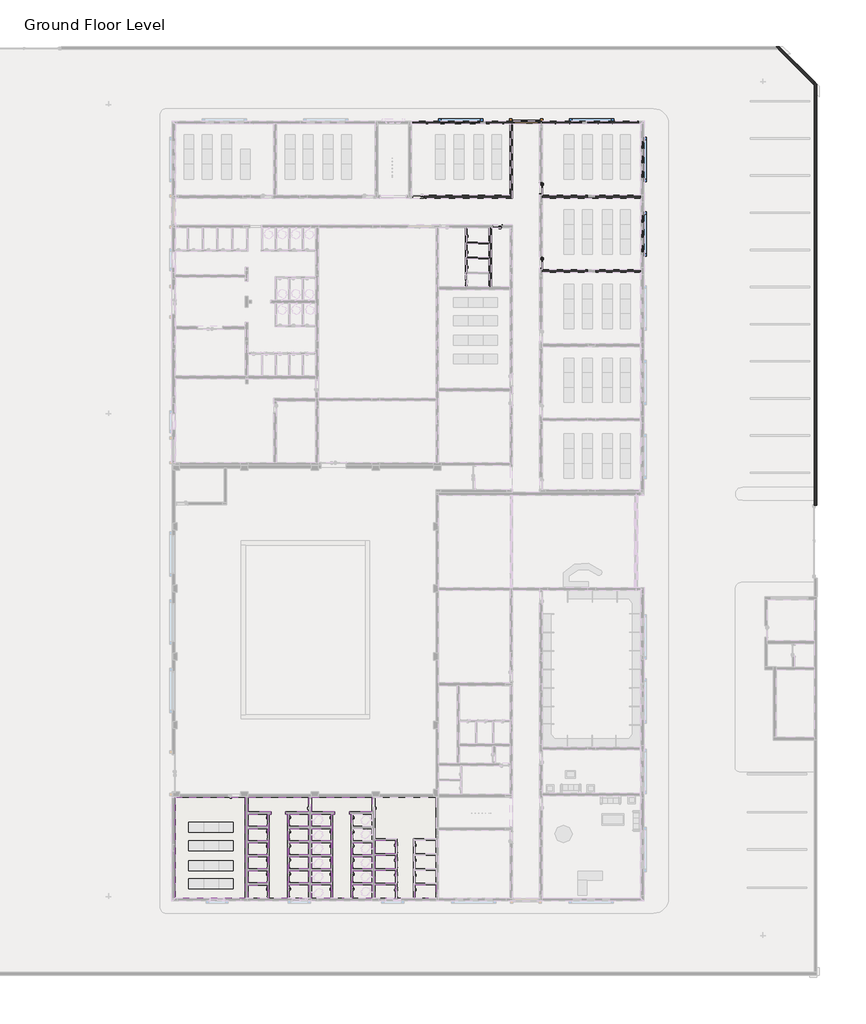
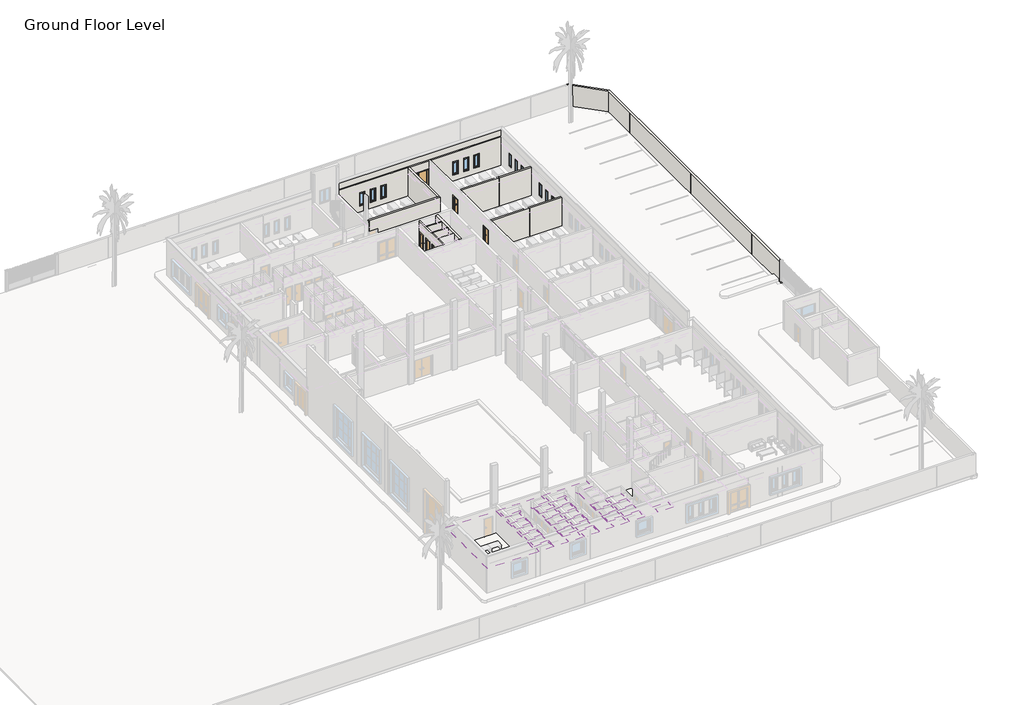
# One storey, part 10 of 23: 30 coverings, 16 windows, 11 walls, 8 doors, 2 slabs.
"""IFC4 building model written with IfcOpenShell, lengths in millimetres."""

from ifc_helpers import new_model, si_unit, frame, origin, place, context, project, spatial, polyline, outline, extrude, faceted_brep, transform, mapped, element, save
from components import door_batten_type_1_30d6fa25, ext_double_out_timber_2lite_nz_2000x_2500_b5d1efe6, int_single_flush_nz_700x_2100_f912e773, int_single_flush_nz_700x_2100_e1d28701, int_single_flush_nz_900_x_2100_021ef152, window_batten_type_1_f037d73b, window_batten_type_1_78a66526, window_batten_type_1_65f01d97, window_single_shutter_w3_b236610e

model = new_model("IFC4")

# Units and contexts
model_context = context("Model", 3, world=origin())
ifc_project = project(units=[si_unit("LENGTHUNIT", "METRE", prefix="MILLI")], contexts=[model_context])

# Site, building, storey
site = spatial("IfcSite", under=ifc_project)
building = spatial("IfcBuilding", under=site)
storey = spatial("IfcBuildingStorey", under=building, Name="Ground Floor Level", Elevation=900.0)

# Coverings
placement = place(None, origin())
element("IfcCovering", 1, ObjectType="600 x 600mm Grid", at=placement, inside=storey, context=model_context, shape_type="SweptSolid", body=[
    extrude(outline(polyline([(-16157.2327605, -32964.7846466), (-16157.2327605, -41144.7846466), (-21837.2327605, -41144.7846466), (-21837.2327605, -32964.7846466), (-16157.2327605, -32964.7846466)])), frame((0.0, 0.0, 3650.0), z_axis=(0.0, 0.0, 1.0), x_axis=(1.0, 0.0, 0.0)), (0.0, 0.0, 1.0), 52.0),
])
element("IfcCovering", 2, ObjectType="Plain", at=placement, inside=storey, context=model_context, shape_type="SweptSolid", body=[
    extrude(outline(polyline([(-8947.2347605, -34144.6926466), (-10803.9007605, -34144.6926466), (-10803.9007605, -32964.7846466), (-5890.5687605, -32964.7846466), (-5890.5687605, -34144.6926466), (-7747.2347605, -34144.6926466), (-7747.2347605, -34364.6926466), (-7587.2347605, -34364.6926466), (-7587.2347605, -41144.7846466), (-9107.2347605, -41144.7846466), (-9107.2347605, -34364.6926466), (-8947.2347605, -34364.6926466), (-8947.2347605, -34144.6926466)])), frame((0.0, 0.0, 3650.0), z_axis=(0.0, 0.0, 1.0), x_axis=(1.0, 0.0, 0.0)), (0.0, 0.0, 1.0), 57.0),
])
element("IfcCovering", 3, ObjectType="Plain", at=placement, inside=storey, context=model_context, shape_type="SweptSolid", body=[
    extrude(outline(polyline([(-14080.5667605, -34144.6926466), (-15937.2327605, -34144.6926466), (-15937.2327605, -32964.7846466), (-11023.9007605, -32964.7846466), (-11023.9007605, -34144.6926466), (-12880.5667605, -34144.6926466), (-12880.5667605, -34364.6926466), (-12720.5667605, -34364.6926466), (-12720.5667605, -41144.7846466), (-14240.5667605, -41144.7846466), (-14240.5667605, -34364.6926466), (-14080.5667605, -34364.6926466), (-14080.5667605, -34144.6926466)])), frame((0.0, 0.0, 3650.0), z_axis=(0.0, 0.0, 1.0), x_axis=(1.0, 0.0, 0.0)), (0.0, 0.0, 1.0), 57.0),
])
element("IfcCovering", 4, ObjectType="Plain", at=placement, inside=storey, context=model_context, shape_type="SweptSolid", body=[
    extrude(outline(polyline([(-14360.5667605, -35342.7835466), (-15937.2327605, -35342.7835466), (-15937.2327605, -34364.6926466), (-14360.5667605, -34364.6926466), (-14360.5667605, -35342.7835466)])), frame((0.0, 0.0, 3650.0), z_axis=(0.0, 0.0, 1.0), x_axis=(1.0, 0.0, 0.0)), (0.0, 0.0, 1.0), 57.0),
])
element("IfcCovering", 5, ObjectType="Plain", at=placement, inside=storey, context=model_context, shape_type="SweptSolid", body=[
    extrude(outline(polyline([(-14360.5667605, -36482.7833366), (-15937.2327605, -36482.7833366), (-15937.2327605, -35512.7835466), (-14360.5667605, -35512.7835466), (-14360.5667605, -36482.7833366)])), frame((0.0, 0.0, 3650.0), z_axis=(0.0, 0.0, 1.0), x_axis=(1.0, 0.0, 0.0)), (0.0, 0.0, 1.0), 57.0),
])
element("IfcCovering", 6, ObjectType="Plain", at=placement, inside=storey, context=model_context, shape_type="SweptSolid", body=[
    extrude(outline(polyline([(-14360.5667605, -37622.7833266), (-15937.2327605, -37622.7833266), (-15937.2327605, -36652.7833366), (-14360.5667605, -36652.7833366), (-14360.5667605, -37622.7833266)])), frame((0.0, 0.0, 3650.0), z_axis=(0.0, 0.0, 1.0), x_axis=(1.0, 0.0, 0.0)), (0.0, 0.0, 1.0), 57.0),
])
element("IfcCovering", 7, ObjectType="Plain", at=placement, inside=storey, context=model_context, shape_type="SweptSolid", body=[
    extrude(outline(polyline([(-14360.5667605, -38762.7929166), (-15937.2327605, -38762.7929166), (-15937.2327605, -37792.7833266), (-14360.5667605, -37792.7833266), (-14360.5667605, -38762.7929166)])), frame((0.0, 0.0, 3650.0), z_axis=(0.0, 0.0, 1.0), x_axis=(1.0, 0.0, 0.0)), (0.0, 0.0, 1.0), 57.0),
])
element("IfcCovering", 8, ObjectType="Plain", at=placement, inside=storey, context=model_context, shape_type="SweptSolid", body=[
    extrude(outline(polyline([(-14360.5667605, -39912.8025066), (-15937.2327605, -39912.8025066), (-15937.2327605, -38932.7929166), (-14360.5667605, -38932.7929166), (-14360.5667605, -39912.8025066)])), frame((0.0, 0.0, 3650.0), z_axis=(0.0, 0.0, 1.0), x_axis=(1.0, 0.0, 0.0)), (0.0, 0.0, 1.0), 57.0),
])
element("IfcCovering", 9, ObjectType="Plain", at=placement, inside=storey, context=model_context, shape_type="SweptSolid", body=[
    extrude(outline(polyline([(-15937.2327605, -41144.7846466), (-15937.2327605, -40082.8025066), (-14360.5667605, -40082.8025066), (-14360.5667605, -41144.7846466), (-15937.2327605, -41144.7846466)])), frame((0.0, 0.0, 3650.0), z_axis=(0.0, 0.0, 1.0), x_axis=(1.0, 0.0, 0.0)), (0.0, 0.0, 1.0), 57.0),
])
element("IfcCovering", 10, ObjectType="Plain", at=placement, inside=storey, context=model_context, shape_type="SweptSolid", body=[
    extrude(outline(polyline([(-12600.5667605, -40072.8025066), (-11023.9007605, -40072.8025066), (-11023.9007605, -41144.7846466), (-12600.5667605, -41144.7846466), (-12600.5667605, -40072.8025066)])), frame((0.0, 0.0, 3650.0), z_axis=(0.0, 0.0, 1.0), x_axis=(1.0, 0.0, 0.0)), (0.0, 0.0, 1.0), 57.0),
])
element("IfcCovering", 11, ObjectType="Plain", at=placement, inside=storey, context=model_context, shape_type="SweptSolid", body=[
    extrude(outline(polyline([(-12600.5667605, -38932.7929166), (-11023.9007605, -38932.7929166), (-11023.9007605, -39902.8025066), (-12600.5667605, -39902.8025066), (-12600.5667605, -38932.7929166)])), frame((0.0, 0.0, 3650.0), z_axis=(0.0, 0.0, 1.0), x_axis=(1.0, 0.0, 0.0)), (0.0, 0.0, 1.0), 57.0),
])
element("IfcCovering", 12, ObjectType="Plain", at=placement, inside=storey, context=model_context, shape_type="SweptSolid", body=[
    extrude(outline(polyline([(-12600.5667605, -37792.7833266), (-11023.9007605, -37792.7833266), (-11023.9007605, -38762.7929166), (-12600.5667605, -38762.7929166), (-12600.5667605, -37792.7833266)])), frame((0.0, 0.0, 3650.0), z_axis=(0.0, 0.0, 1.0), x_axis=(1.0, 0.0, 0.0)), (0.0, 0.0, 1.0), 57.0),
])
element("IfcCovering", 13, ObjectType="Plain", at=placement, inside=storey, context=model_context, shape_type="SweptSolid", body=[
    extrude(outline(polyline([(-12600.5667605, -36652.7833366), (-11023.9007605, -36652.7833366), (-11023.9007605, -37622.7833266), (-12600.5667605, -37622.7833266), (-12600.5667605, -36652.7833366)])), frame((0.0, 0.0, 3650.0), z_axis=(0.0, 0.0, 1.0), x_axis=(1.0, 0.0, 0.0)), (0.0, 0.0, 1.0), 57.0),
])
element("IfcCovering", 14, ObjectType="Plain", at=placement, inside=storey, context=model_context, shape_type="SweptSolid", body=[
    extrude(outline(polyline([(-12600.5667605, -35512.7835466), (-11023.9007605, -35512.7835466), (-11023.9007605, -36482.7833366), (-12600.5667605, -36482.7833366), (-12600.5667605, -35512.7835466)])), frame((0.0, 0.0, 3650.0), z_axis=(0.0, 0.0, 1.0), x_axis=(1.0, 0.0, 0.0)), (0.0, 0.0, 1.0), 57.0),
])
element("IfcCovering", 15, ObjectType="Plain", at=placement, inside=storey, context=model_context, shape_type="SweptSolid", body=[
    extrude(outline(polyline([(-11023.9007605, -34364.6926466), (-11023.9007605, -35342.7835466), (-12600.5667605, -35342.7835466), (-12600.5667605, -34364.6926466), (-11023.9007605, -34364.6926466)])), frame((0.0, 0.0, 3650.0), z_axis=(0.0, 0.0, 1.0), x_axis=(1.0, 0.0, 0.0)), (0.0, 0.0, 1.0), 57.0),
])
element("IfcCovering", 16, ObjectType="Plain", at=placement, inside=storey, context=model_context, shape_type="SweptSolid", body=[
    extrude(outline(polyline([(-9227.2347605, -35342.7835466), (-10803.9007605, -35342.7835466), (-10803.9007605, -34364.6926466), (-9227.2347605, -34364.6926466), (-9227.2347605, -35342.7835466)])), frame((0.0, 0.0, 3650.0), z_axis=(0.0, 0.0, 1.0), x_axis=(1.0, 0.0, 0.0)), (0.0, 0.0, 1.0), 57.0),
])
element("IfcCovering", 17, ObjectType="Plain", at=placement, inside=storey, context=model_context, shape_type="SweptSolid", body=[
    extrude(outline(polyline([(-9227.2347605, -36482.7833366), (-10803.9007605, -36482.7833366), (-10803.9007605, -35512.7835466), (-9227.2347605, -35512.7835466), (-9227.2347605, -36482.7833366)])), frame((0.0, 0.0, 3650.0), z_axis=(0.0, 0.0, 1.0), x_axis=(1.0, 0.0, 0.0)), (0.0, 0.0, 1.0), 57.0),
])
element("IfcCovering", 18, ObjectType="Plain", at=placement, inside=storey, context=model_context, shape_type="SweptSolid", body=[
    extrude(outline(polyline([(-9227.2347605, -37622.7833266), (-10803.9007605, -37622.7833266), (-10803.9007605, -36652.7833366), (-9227.2347605, -36652.7833366), (-9227.2347605, -37622.7833266)])), frame((0.0, 0.0, 3650.0), z_axis=(0.0, 0.0, 1.0), x_axis=(1.0, 0.0, 0.0)), (0.0, 0.0, 1.0), 57.0),
])
element("IfcCovering", 19, ObjectType="Plain", at=placement, inside=storey, context=model_context, shape_type="SweptSolid", body=[
    extrude(outline(polyline([(-9227.2347605, -38762.7929166), (-10803.9007605, -38762.7929166), (-10803.9007605, -37792.7833266), (-9227.2347605, -37792.7833266), (-9227.2347605, -38762.7929166)])), frame((0.0, 0.0, 3650.0), z_axis=(0.0, 0.0, 1.0), x_axis=(1.0, 0.0, 0.0)), (0.0, 0.0, 1.0), 57.0),
])
element("IfcCovering", 20, ObjectType="Plain", at=placement, inside=storey, context=model_context, shape_type="SweptSolid", body=[
    extrude(outline(polyline([(-9227.2347605, -39902.8025066), (-10803.9007605, -39902.8025066), (-10803.9007605, -38932.7929166), (-9227.2347605, -38932.7929166), (-9227.2347605, -39902.8025066)])), frame((0.0, 0.0, 3650.0), z_axis=(0.0, 0.0, 1.0), x_axis=(1.0, 0.0, 0.0)), (0.0, 0.0, 1.0), 57.0),
])
element("IfcCovering", 21, ObjectType="Plain", at=placement, inside=storey, context=model_context, shape_type="SweptSolid", body=[
    extrude(outline(polyline([(-10803.9007605, -41144.7846466), (-10803.9007605, -40072.8025066), (-9227.2347605, -40072.8025066), (-9227.2347605, -41144.7846466), (-10803.9007605, -41144.7846466)])), frame((0.0, 0.0, 3650.0), z_axis=(0.0, 0.0, 1.0), x_axis=(1.0, 0.0, 0.0)), (0.0, 0.0, 1.0), 57.0),
])
element("IfcCovering", 22, ObjectType="Plain", at=placement, inside=storey, context=model_context, shape_type="SweptSolid", body=[
    extrude(outline(polyline([(-5890.5687605, -36652.7833366), (-5890.5687605, -37622.7833266), (-7467.2347605, -37622.7833266), (-7467.2347605, -36652.7833366), (-5890.5687605, -36652.7833366)])), frame((0.0, 0.0, 3650.0), z_axis=(0.0, 0.0, 1.0), x_axis=(1.0, 0.0, 0.0)), (0.0, 0.0, 1.0), 57.0),
])
element("IfcCovering", 23, ObjectType="Plain", at=placement, inside=storey, context=model_context, shape_type="SweptSolid", body=[
    extrude(outline(polyline([(-5890.5687605, -37792.7833266), (-5890.5687605, -38762.7929166), (-7467.2347605, -38762.7929166), (-7467.2347605, -37792.7833266), (-5890.5687605, -37792.7833266)])), frame((0.0, 0.0, 3650.0), z_axis=(0.0, 0.0, 1.0), x_axis=(1.0, 0.0, 0.0)), (0.0, 0.0, 1.0), 57.0),
])
element("IfcCovering", 24, ObjectType="Plain", at=placement, inside=storey, context=model_context, shape_type="SweptSolid", body=[
    extrude(outline(polyline([(-5890.5687605, -38932.7929166), (-5890.5687605, -39902.8025066), (-7467.2347605, -39902.8025066), (-7467.2347605, -38932.7929166), (-5890.5687605, -38932.7929166)])), frame((0.0, 0.0, 3650.0), z_axis=(0.0, 0.0, 1.0), x_axis=(1.0, 0.0, 0.0)), (0.0, 0.0, 1.0), 57.0),
])
element("IfcCovering", 25, ObjectType="Plain", at=placement, inside=storey, context=model_context, shape_type="SweptSolid", body=[
    extrude(outline(polyline([(-5890.5687605, -40072.8025066), (-5890.5687605, -41144.7846466), (-7467.2347605, -41144.7846466), (-7467.2347605, -40072.8025066), (-5890.5687605, -40072.8025066)])), frame((0.0, 0.0, 3650.0), z_axis=(0.0, 0.0, 1.0), x_axis=(1.0, 0.0, 0.0)), (0.0, 0.0, 1.0), 57.0),
])
element("IfcCovering", 26, ObjectType="Plain", at=placement, inside=storey, context=model_context, shape_type="SweptSolid", body=[
    extrude(outline(polyline([(-5670.5687605, -41144.7846466), (-5670.5687605, -40064.7846466), (-3991.0371386, -40064.7846466), (-3991.0371386, -41144.7846466), (-5670.5687605, -41144.7846466)])), frame((0.0, 0.0, 3650.0), z_axis=(0.0, 0.0, 1.0), x_axis=(1.0, 0.0, 0.0)), (0.0, 0.0, 1.0), 57.0),
])
element("IfcCovering", 27, ObjectType="Plain", at=placement, inside=storey, context=model_context, shape_type="SweptSolid", body=[
    extrude(outline(polyline([(-3991.0371386, -39944.7846466), (-5670.5687605, -39944.7846466), (-5670.5687605, -38864.7846466), (-3991.0371386, -38864.7846466), (-3991.0371386, -39944.7846466)])), frame((0.0, 0.0, 3650.0), z_axis=(0.0, 0.0, 1.0), x_axis=(1.0, 0.0, 0.0)), (0.0, 0.0, 1.0), 57.0),
])
element("IfcCovering", 28, ObjectType="Plain", at=placement, inside=storey, context=model_context, shape_type="SweptSolid", body=[
    extrude(outline(polyline([(-3991.0371386, -38744.7846466), (-5670.5687605, -38744.7846466), (-5670.5687605, -37664.7846466), (-3991.0371386, -37664.7846466), (-3991.0371386, -38744.7846466)])), frame((0.0, 0.0, 3650.0), z_axis=(0.0, 0.0, 1.0), x_axis=(1.0, 0.0, 0.0)), (0.0, 0.0, 1.0), 57.0),
])
element("IfcCovering", 29, ObjectType="Plain", at=placement, inside=storey, context=model_context, shape_type="SweptSolid", body=[
    extrude(outline(polyline([(-3991.0371386, -37544.7846466), (-5670.5687605, -37544.7846466), (-5670.5687605, -36464.7846466), (-3991.0371386, -36464.7846466), (-3991.0371386, -37544.7846466)])), frame((0.0, 0.0, 3650.0), z_axis=(0.0, 0.0, 1.0), x_axis=(1.0, 0.0, 0.0)), (0.0, 0.0, 1.0), 57.0),
])
element("IfcCovering", 30, ObjectType="Plain", at=placement, inside=storey, context=model_context, shape_type="SweptSolid", body=[
    extrude(outline(polyline([(-2436.7643824, -41144.7846466), (-2436.7643824, -40064.7846466), (-757.2327605, -40064.7846466), (-757.2327605, -41144.7846466), (-2436.7643824, -41144.7846466)])), frame((0.0, 0.0, 3650.0), z_axis=(0.0, 0.0, 1.0), x_axis=(1.0, 0.0, 0.0)), (0.0, 0.0, 1.0), 57.0),
])

# Doors
door_batten_type_1_shape = door_batten_type_1_30d6fa25(model_context)
element("IfcDoor", 31, ObjectType="Door Batten : Type 1", at=placement, inside=storey, context=model_context, shape_type="MappedRepresentation", body=[
    mapped(door_batten_type_1_shape, transform((6678.9728517, 21545.2153534, 993.650134), x_axis=(-1.0, 0.0, 0.0), y_axis=(0.0, -1.0, 0.0), z_axis=(0.0, 0.0, 1.0))),
])
ext_double_out_timber_2lite_nz_2000x_2500_shape = ext_double_out_timber_2lite_nz_2000x_2500_b5d1efe6(model_context)
element("IfcDoor", 32, ObjectType="Ext Double Out-Timber-2Lite (NZ) : 2000x 2500", at=placement, inside=storey, context=model_context, shape_type="MappedRepresentation", body=[
    mapped(ext_double_out_timber_2lite_nz_2000x_2500_shape, transform((6694.7672395, 21547.9448707, 900.0), x_axis=(1.0, 0.0, 0.0), y_axis=(0.0, 1.0, 0.0), z_axis=(0.0, 0.0, 1.0))),
])
int_single_flush_nz_700x_2100_shape = int_single_flush_nz_700x_2100_f912e773(model_context)
element("IfcDoor", 33, ObjectType="Int Single-Flush (NZ) : 700x 2100", at=placement, inside=storey, context=model_context, shape_type="MappedRepresentation", body=[
    mapped(int_single_flush_nz_700x_2100_shape, transform((4156.7672395, 13145.2153534, 900.0), x_axis=(-1.0, 0.0, 0.0), y_axis=(0.0, -1.0, 0.0), z_axis=(0.0, 0.0, 1.0))),
])
int_single_flush_nz_700x_2100_2_shape = int_single_flush_nz_700x_2100_e1d28701(model_context)
element("IfcDoor", 34, ObjectType="Int Single-Flush (NZ) : 700x 2100", at=placement, inside=storey, context=model_context, shape_type="MappedRepresentation", body=[
    mapped(int_single_flush_nz_700x_2100_2_shape, transform((1702.7672395, 12641.2153534, 1000.0), x_axis=(0.0, 1.0, 0.0), y_axis=(-1.0, 0.0, 0.0), z_axis=(0.0, 0.0, 1.0))),
])
element("IfcDoor", 35, ObjectType="Int Single-Flush (NZ) : 700x 2100", at=placement, inside=storey, context=model_context, shape_type="MappedRepresentation", body=[
    mapped(int_single_flush_nz_700x_2100_2_shape, transform((1702.7672395, 11341.2153534, 1000.0), x_axis=(0.0, 1.0, 0.0), y_axis=(-1.0, 0.0, 0.0), z_axis=(0.0, 0.0, 1.0))),
])
element("IfcDoor", 36, ObjectType="Int Single-Flush (NZ) : 700x 2100", at=placement, inside=storey, context=model_context, shape_type="MappedRepresentation", body=[
    mapped(int_single_flush_nz_700x_2100_2_shape, transform((1702.7672395, 10131.2153534, 1000.0), x_axis=(0.0, 1.0, 0.0), y_axis=(-1.0, 0.0, 0.0), z_axis=(0.0, 0.0, 1.0))),
])
int_single_flush_nz_900_x_2100_shape = int_single_flush_nz_900_x_2100_021ef152(model_context)
element("IfcDoor", 37, ObjectType="Int Single-Flush (NZ) : 900 x 2100", at=placement, inside=storey, context=model_context, shape_type="MappedRepresentation", body=[
    mapped(int_single_flush_nz_900_x_2100_shape, transform((7752.7672395, 16149.2153534, 1000.0), x_axis=(0.0, -1.0, 0.0), y_axis=(1.0, 0.0, 0.0), z_axis=(0.0, 0.0, 1.0))),
])
element("IfcDoor", 38, ObjectType="Int Single-Flush (NZ) : 900 x 2100", at=placement, inside=storey, context=model_context, shape_type="MappedRepresentation", body=[
    mapped(int_single_flush_nz_900_x_2100_shape, transform((7752.7672395, 10149.2153534, 1000.0), x_axis=(0.0, -1.0, 0.0), y_axis=(1.0, 0.0, 0.0), z_axis=(0.0, 0.0, 1.0))),
])

# Slabs
element("IfcSlab", 39, ObjectType="Ceramic Tile Floor 30x30", at=placement, inside=storey, context=model_context, shape_type="Brep", body=[
    faceted_brep([(-747.2327605, -32954.7846466, 900.0), (-747.2327605, -32964.7846466, 900.0), (-747.2327605, -35454.7846466, 900.0), (-747.2327605, -36054.7846466, 900.0), (-747.2327605, -40854.7846466, 900.0), (-747.2327605, -41154.7846466, 900.0), (-5397.2327605, -41154.7846466, 900.0), (-5897.2327605, -41154.7846466, 900.0), (-10297.2327605, -41154.7846466, 900.0), (-10797.2327605, -41154.7846466, 900.0), (-15947.2327605, -41154.7846466, 900.0), (-15947.2327605, -41144.7846466, 900.0), (-15947.2327605, -32964.7846466, 900.0), (-15947.2327605, -32954.7846466, 900.0), (-10847.2327605, -32954.7846466, 900.0), (-10247.2327605, -32954.7846466, 900.0), (-5897.2327605, -32954.7846466, 900.0), (-5297.2327605, -32954.7846466, 900.0), (-947.2327605, -32954.7846466, 900.0), (-747.2327605, -32954.7846466, 1000.0), (-947.2327605, -32954.7846466, 1000.0), (-5297.2327605, -32954.7846466, 1000.0), (-5897.2327605, -32954.7846466, 1000.0), (-10247.2327605, -32954.7846466, 1000.0), (-10847.2327605, -32954.7846466, 1000.0), (-15947.2327605, -32954.7846466, 1000.0), (-15947.2327605, -32964.7846466, 1000.0), (-15947.2327605, -41144.7846466, 1000.0), (-15947.2327605, -41154.7846466, 1000.0), (-10797.2327605, -41154.7846466, 1000.0), (-10297.2327605, -41154.7846466, 1000.0), (-5897.2327605, -41154.7846466, 1000.0), (-5397.2327605, -41154.7846466, 1000.0), (-747.2327605, -41154.7846466, 1000.0), (-747.2327605, -41144.7846466, 1000.0), (-747.2327605, -40854.7846466, 1000.0), (-747.2327605, -36054.7846466, 1000.0), (-747.2327605, -35454.7846466, 1000.0), (-747.2327605, -32964.7846466, 1000.0)], [[[0, 1, 2, 3, 4, 5, 6, 7, 8, 9, 10, 11, 12, 13, 14, 15, 16, 17, 18]], [[19, 20, 21, 22, 23, 24, 25, 26, 27, 28, 29, 30, 31, 32, 33, 34, 35, 36, 37, 38]], [[5, 4, 3, 2, 1, 0, 19, 38, 37, 36, 35, 34, 33]], [[10, 9, 8, 7, 6, 5, 33, 32, 31, 30, 29, 28]], [[13, 12, 11, 10, 28, 27, 26, 25]], [[0, 18, 17, 16, 15, 14, 13, 25, 24, 23, 22, 21, 20, 19]]]),
])
element("IfcSlab", 40, ObjectType="Ceramic Tile Floor 60x60cm", at=placement, inside=storey, context=model_context, shape_type="Brep", body=[
    faceted_brep([(-16147.2327605, -32954.7846466, 900.0), (-16147.2327605, -32964.7846466, 900.0), (-16147.2327605, -41144.7846466, 900.0), (-16147.2327605, -41154.7846466, 900.0), (-16497.2327605, -41154.7846466, 900.0), (-21647.2327605, -41154.7846466, 900.0), (-21847.2327605, -41154.7846466, 900.0), (-21847.2327605, -41144.7846466, 900.0), (-21847.2327605, -37304.7846466, 900.0), (-21847.2327605, -36804.7846466, 900.0), (-21847.2327605, -32964.7846466, 900.0), (-21847.2327605, -32954.7846466, 900.0), (-21447.2327605, -32954.7846466, 900.0), (-16547.2327605, -32954.7846466, 900.0), (-16147.2327605, -32954.7846466, 1000.0), (-16547.2327605, -32954.7846466, 1000.0), (-16557.2327605, -32954.7846466, 1000.0), (-17495.2327605, -32954.7846466, 1000.0), (-21447.2327605, -32954.7846466, 1000.0), (-21837.2327605, -32954.7846466, 1000.0), (-21847.2327605, -32954.7846466, 1000.0), (-21847.2327605, -32964.7846466, 1000.0), (-21847.2327605, -36804.7846466, 1000.0), (-21847.2327605, -37304.7846466, 1000.0), (-21847.2327605, -41144.7846466, 1000.0), (-21847.2327605, -41154.7846466, 1000.0), (-21647.2327605, -41154.7846466, 1000.0), (-16497.2327605, -41154.7846466, 1000.0), (-16147.2327605, -41154.7846466, 1000.0), (-16147.2327605, -41144.7846466, 1000.0), (-16147.2327605, -32964.7846466, 1000.0)], [[[0, 1, 2, 3, 4, 5, 6, 7, 8, 9, 10, 11, 12, 13]], [[14, 15, 16, 17, 18, 19, 20, 21, 22, 23, 24, 25, 26, 27, 28, 29, 30]], [[3, 2, 1, 0, 14, 30, 29, 28]], [[6, 5, 4, 3, 28, 27, 26, 25]], [[11, 10, 9, 8, 7, 6, 25, 24, 23, 22, 21, 20]], [[0, 13, 12, 11, 20, 19, 18, 17, 16, 15, 14]]]),
])

# Walls
element("IfcWall", 41, ObjectType="Exterior - Blockwork 200mm", at=placement, inside=storey, context=model_context, shape_type="Brep", body=[
    faceted_brep([(16062.7672395, 21435.2153534, 5302.8002678), (15842.7672395, 21435.2153534, 5302.8002678), (-2737.2327605, 21435.2153534, 5302.8002678), (-2737.2327605, 21435.2153534, 4550.0), (15842.7672395, 21435.2153534, 4550.0), (16052.7672395, 21435.2153534, 4550.0), (16052.7672395, 21435.2153534, 4400.0), (15842.7672395, 21435.2153534, 4400.0), (7862.7672395, 21435.2153534, 4400.0), (7852.7672395, 21435.2153534, 4400.0), (7852.7672395, 21435.2153534, 1000.0), (7862.7672395, 21435.2153534, 1000.0), (15842.7672395, 21435.2153534, 1000.0), (15852.7672395, 21435.2153534, 1000.0), (15852.7672395, 21435.2153534, 900.0), (16062.7672395, 21435.2153534, 900.0), (10962.7672395, 21435.2153534, 1700.0), (10362.7672395, 21435.2153534, 1700.0), (10362.7672395, 21435.2153534, 3300.0), (10962.7672395, 21435.2153534, 3300.0), (12162.7672395, 21435.2153534, 1700.0), (11562.7672395, 21435.2153534, 1700.0), (11562.7672395, 21435.2153534, 3300.0), (12162.7672395, 21435.2153534, 3300.0), (13342.7672395, 21435.2153534, 1700.0), (12742.7672395, 21435.2153534, 1700.0), (12742.7672395, 21435.2153534, 3300.0), (13342.7672395, 21435.2153534, 3300.0), (7652.7672395, 21435.2153534, 4400.0), (7642.7672395, 21435.2153534, 4400.0), (5462.7672395, 21435.2153534, 4400.0), (5242.7672395, 21435.2153534, 4400.0), (-2737.2327605, 21435.2153534, 4400.0), (-2737.2327605, 21435.2153534, 1000.0), (5242.7672395, 21435.2153534, 1000.0), (5252.7672395, 21435.2153534, 1000.0), (5252.7672395, 21435.2153534, 900.0), (5452.7672395, 21435.2153534, 900.0), (5452.7672395, 21435.2153534, 1000.0), (5462.7672395, 21435.2153534, 1000.0), (5526.7672395, 21435.2153534, 1000.0), (5526.7672395, 21435.2153534, 3400.0), (7578.7672395, 21435.2153534, 3400.0), (7578.7672395, 21435.2153534, 1000.0), (7642.7672395, 21435.2153534, 1000.0), (7652.7672395, 21435.2153534, 1000.0), (342.7672395, 21435.2153534, 1700.0), (-257.2327605, 21435.2153534, 1700.0), (-257.2327605, 21435.2153534, 3300.0), (342.7672395, 21435.2153534, 3300.0), (1562.7672395, 21435.2153534, 1700.0), (962.7672395, 21435.2153534, 1700.0), (962.7672395, 21435.2153534, 3300.0), (1562.7672395, 21435.2153534, 3300.0), (2762.7672395, 21435.2153534, 1700.0), (2162.7672395, 21435.2153534, 1700.0), (2162.7672395, 21435.2153534, 3300.0), (2762.7672395, 21435.2153534, 3300.0), (-2737.2327605, 21655.2153534, 5302.8002678), (16062.7672395, 21655.2153534, 5302.8002678), (16062.7672395, 21655.2153534, 900.0), (7578.7672395, 21655.2153534, 900.0), (7578.7672395, 21655.2153534, 3400.0), (5526.7672395, 21655.2153534, 3400.0), (5526.7672395, 21655.2153534, 900.0), (-2737.2327605, 21655.2153534, 900.0), (-257.2327605, 21655.2153534, 1700.0), (342.7672395, 21655.2153534, 1700.0), (342.7672395, 21655.2153534, 3300.0), (-257.2327605, 21655.2153534, 3300.0), (962.7672395, 21655.2153534, 1700.0), (1562.7672395, 21655.2153534, 1700.0), (1562.7672395, 21655.2153534, 3300.0), (962.7672395, 21655.2153534, 3300.0), (2162.7672395, 21655.2153534, 1700.0), (2762.7672395, 21655.2153534, 1700.0), (2762.7672395, 21655.2153534, 3300.0), (2162.7672395, 21655.2153534, 3300.0), (10362.7672395, 21655.2153534, 1700.0), (10962.7672395, 21655.2153534, 1700.0), (10962.7672395, 21655.2153534, 3300.0), (10362.7672395, 21655.2153534, 3300.0), (11562.7672395, 21655.2153534, 1700.0), (12162.7672395, 21655.2153534, 1700.0), (12162.7672395, 21655.2153534, 3300.0), (11562.7672395, 21655.2153534, 3300.0), (12742.7672395, 21655.2153534, 1700.0), (13342.7672395, 21655.2153534, 1700.0), (13342.7672395, 21655.2153534, 3300.0), (12742.7672395, 21655.2153534, 3300.0), (2802.7672395, 21445.2153534, 4400.0), (3302.7672395, 21445.2153534, 4400.0), (3302.7672395, 21445.2153534, 1000.0), (2802.7672395, 21445.2153534, 1000.0), (2802.7672395, 21645.2153534, 900.0), (2802.7672395, 21645.2153534, 4400.0), (2802.7672395, 21445.2153534, 900.0), (3302.7672395, 21645.2153534, 900.0), (3302.7672395, 21645.2153534, 4400.0), (7652.7672395, 21645.2153534, 4400.0), (7652.7672395, 21645.2153534, 900.0), (7852.7672395, 21645.2153534, 900.0), (7852.7672395, 21645.2153534, 4400.0), (11052.7672395, 21645.2153534, 4400.0), (11052.7672395, 21645.2153534, 900.0), (11552.7672395, 21645.2153534, 900.0), (11552.7672395, 21645.2153534, 4400.0), (15652.7672395, 21645.2153534, 4400.0), (15652.7672395, 21645.2153534, 900.0), (16052.7672395, 21645.2153534, 900.0), (16052.7672395, 21645.2153534, 4400.0), (16052.7672395, 21645.2153534, 4550.0), (-2737.2327605, 21645.2153534, 4550.0), (-2737.2327605, 21645.2153534, 4400.0), (3302.7672395, 21445.2153534, 900.0), (7852.7672395, 21445.2153534, 900.0), (7852.7672395, 21445.2153534, 1000.0), (7652.7672395, 21445.2153534, 1000.0), (7652.7672395, 21445.2153534, 900.0), (11552.7672395, 21445.2153534, 900.0), (11552.7672395, 21445.2153534, 1000.0), (11552.7672395, 21445.2153534, 4400.0), (11052.7672395, 21445.2153534, 4400.0), (11052.7672395, 21445.2153534, 1000.0), (11052.7672395, 21445.2153534, 900.0), (16052.7672395, 21445.2153534, 900.0), (16052.7672395, 21445.2153534, 4400.0), (15852.7672395, 21445.2153534, 900.0), (15852.7672395, 21445.2153534, 1000.0), (15652.7672395, 21445.2153534, 1000.0), (15652.7672395, 21445.2153534, 4400.0), (15652.7672395, 21445.2153534, 900.0), (7578.7672395, 21445.2153534, 1000.0), (5452.7672395, 21445.2153534, 1000.0), (5526.7672395, 21445.2153534, 1000.0), (5452.7672395, 21445.2153534, 900.0), (7578.7672395, 21445.2153534, 900.0), (5526.7672395, 21445.2153534, 900.0), (-2737.2327605, 21445.2153534, 1000.0), (5252.7672395, 21445.2153534, 1000.0), (5252.7672395, 21445.2153534, 900.0), (-2737.2327605, 21445.2153534, 900.0)], [[[0, 1, 2, 3, 4, 5, 6, 7, 8, 9, 10, 11, 12, 13, 14, 15], [16, 17, 18, 19], [20, 21, 22, 23], [24, 25, 26, 27]], [[28, 29, 30, 31, 32, 33, 34, 35, 36, 37, 38, 39, 40, 41, 42, 43, 44, 45], [46, 47, 48, 49], [50, 51, 52, 53], [54, 55, 56, 57]], [[58, 59, 60, 61, 62, 63, 64, 65], [66, 67, 68, 69], [70, 71, 72, 73], [74, 75, 76, 77], [78, 79, 80, 81], [82, 83, 84, 85], [86, 87, 88, 89]], [[0, 15, 60, 59]], [[47, 46, 67, 66]], [[46, 49, 68, 67]], [[49, 48, 69, 68]], [[48, 47, 66, 69]], [[51, 50, 71, 70]], [[50, 53, 72, 71]], [[53, 52, 73, 72]], [[52, 51, 70, 73]], [[55, 54, 75, 74]], [[54, 57, 76, 75]], [[57, 56, 77, 76]], [[56, 55, 74, 77]], [[17, 16, 79, 78]], [[16, 19, 80, 79]], [[19, 18, 81, 80]], [[18, 17, 78, 81]], [[21, 20, 83, 82]], [[20, 23, 84, 83]], [[23, 22, 85, 84]], [[22, 21, 82, 85]], [[25, 24, 87, 86]], [[24, 27, 88, 87]], [[27, 26, 89, 88]], [[26, 25, 86, 89]], [[90, 91, 92, 93]], [[94, 95, 90, 93, 96]], [[95, 94, 97, 98, 99, 100, 101, 102, 103, 104, 105, 106, 107, 108, 109, 110, 111, 112, 113]], [[98, 97, 114, 92, 91]], [[102, 101, 115, 116, 10, 9]], [[100, 99, 28, 45, 117, 118]], [[106, 105, 119, 120, 121]], [[122, 121, 120, 123]], [[104, 103, 122, 123, 124]], [[125, 126, 6, 5, 111, 110, 109]], [[126, 125, 127, 128, 129, 130]], [[108, 107, 130, 129, 131]], [[99, 98, 91, 90, 95, 113, 32, 31, 30, 29, 28]], [[103, 102, 9, 8, 7, 6, 126, 130, 107, 106, 121, 122]], [[112, 111, 5, 4, 3]], [[116, 123, 120, 129, 128, 13, 12, 11, 10]], [[123, 116, 115, 124]], [[129, 120, 119, 131]], [[13, 128, 127, 14]], [[45, 44, 43, 132, 117]], [[38, 133, 134, 40, 39]], [[135, 133, 38, 37]], [[118, 117, 132, 136]], [[133, 135, 137, 134]], [[138, 93, 92, 139, 35, 34, 33]], [[139, 140, 36, 35]], [[140, 139, 92, 114]], [[93, 138, 141, 96]], [[42, 62, 61, 136, 132, 43]], [[62, 42, 41, 63]], [[63, 41, 40, 134, 137, 64]], [[61, 60, 15, 14, 127, 125, 109, 108, 131, 119, 105, 104, 124, 115, 101, 100, 118, 136]], [[65, 64, 137, 135, 37, 36, 140, 114, 97, 94, 96, 141]], [[2, 1, 0, 59, 58]], [[58, 65, 141, 138, 33, 32, 113, 112, 3, 2]]]),
])
element("IfcWall", 42, ObjectType="Exterior - Blockwork 200mm", at=placement, inside=storey, context=model_context, shape_type="Brep", body=[
    faceted_brep([(29832.7672395, 24865.2153534, 600.0), (29832.7672395, 24554.0883697, 600.0), (29832.7672395, -9400.3481385, 600.0), (29832.7672395, -9400.3481385, 3100.0), (29832.7672395, 24554.0883697, 3100.0), (29832.7672395, 24865.2153534, 3100.0), (30052.7672395, 24645.2153534, 600.0), (30052.7672395, 24645.2153534, 3100.0), (30052.7672395, -9400.3481385, 3100.0), (30052.7672395, -9400.3481385, 600.0)], [[[0, 1, 2, 3, 4, 5]], [[6, 7, 8, 9]], [[2, 1, 0, 6, 9]], [[3, 2, 9, 8]], [[5, 4, 3, 8, 7]], [[0, 5, 7, 6]]]),
])
element("IfcWall", 43, ObjectType="Exterior - Blockwork 200mm", at=placement, inside=storey, context=model_context, shape_type="Brep", body=[
    faceted_brep([(26721.6402558, 27665.2153534, 600.0), (26941.6402558, 27445.2153534, 600.0), (29832.7672395, 24554.0883697, 600.0), (29832.7672395, 24554.0883697, 3100.0), (26941.6402558, 27445.2153534, 3100.0), (26721.6402558, 27665.2153534, 3100.0), (27032.7672395, 27665.2153534, 600.0), (27032.7672395, 27665.2153534, 3100.0), (29832.7672395, 24865.2153534, 3100.0), (29832.7672395, 24865.2153534, 600.0)], [[[0, 1, 2, 3, 4, 5]], [[6, 7, 8, 9]], [[2, 1, 0, 6, 9]], [[5, 4, 3, 8, 7]], [[3, 2, 9, 8]], [[0, 5, 7, 6]]]),
])
element("IfcWall", 44, ObjectType="Interior - Blockwork 200", at=placement, inside=storey, context=model_context, shape_type="SweptSolid", body=[
    extrude(outline(polyline([(4400.0, 5462.7672395), (4400.0, 5242.7672395), (1000.0, 5242.7672395), (1000.0, 5252.7672395), (900.0, 5252.7672395), (900.0, 5452.7672395), (1000.0, 5452.7672395), (1000.0, 5462.7672395), (4400.0, 5462.7672395)])), frame((0.0, 15655.2153534, 0.0), z_axis=(0.0, 1.0, 0.0), x_axis=(0.0, 0.0, 1.0)), (0.0, 0.0, 1.0), 5780.0),
])
element("IfcWall", 45, ObjectType="Interior - Blockwork 200", at=placement, inside=storey, context=model_context, shape_type="Brep", body=[
    faceted_brep([(3542.7672395, 13035.2153534, 900.0), (3542.7672395, 11855.2153534, 900.0), (3542.7672395, 11735.2153534, 900.0), (3542.7672395, 10645.2153534, 900.0), (3542.7672395, 10525.2153534, 900.0), (3542.7672395, 9455.2153534, 900.0), (3542.7672395, 9335.2153534, 900.0), (3542.7672395, 8255.2153534, 900.0), (3542.7672395, 8255.2153534, 1000.0), (3542.7672395, 8255.2153534, 4400.0), (3542.7672395, 9335.2153534, 4400.0), (3542.7672395, 9455.2153534, 4400.0), (3542.7672395, 10525.2153534, 4400.0), (3542.7672395, 10645.2153534, 4400.0), (3542.7672395, 11735.2153534, 4400.0), (3542.7672395, 11855.2153534, 4400.0), (3542.7672395, 13035.2153534, 4400.0), (3762.7672395, 13035.2153534, 900.0), (3762.7672395, 13035.2153534, 4400.0), (3762.7672395, 8255.2153534, 4400.0), (3762.7672395, 8255.2153534, 900.0)], [[[0, 1, 2, 3, 4, 5, 6, 7, 8, 9, 10, 11, 12, 13, 14, 15, 16]], [[17, 18, 19, 20]], [[7, 6, 5, 4, 3, 2, 1, 0, 17, 20]], [[0, 16, 18, 17]], [[9, 8, 7, 20, 19]], [[16, 15, 14, 13, 12, 11, 10, 9, 19, 18]]]),
])
element("IfcWall", 46, ObjectType="Interior - Blockwork 200", at=placement, inside=storey, context=model_context, shape_type="Brep", body=[
    faceted_brep([(15842.7672395, 15655.2153534, 900.0), (7862.7672395, 15655.2153534, 900.0), (7862.7672395, 15655.2153534, 1000.0), (7862.7672395, 15655.2153534, 4400.0), (15842.7672395, 15655.2153534, 4400.0), (15842.7672395, 15655.2153534, 1000.0), (15842.7672395, 15435.2153534, 4400.0), (7862.7672395, 15435.2153534, 4400.0), (7862.7672395, 15435.2153534, 1000.0), (15842.7672395, 15435.2153534, 1000.0), (15842.7672395, 15445.2153534, 900.0), (12152.7672395, 15445.2153534, 900.0), (12152.7672395, 15645.2153534, 900.0), (11552.7672395, 15645.2153534, 900.0), (11552.7672395, 15445.2153534, 900.0), (7862.7672395, 15445.2153534, 900.0), (7862.7672395, 15445.2153534, 1000.0), (15842.7672395, 15445.2153534, 1000.0), (12152.7672395, 15645.2153534, 4400.0), (11552.7672395, 15645.2153534, 4400.0), (12152.7672395, 15445.2153534, 1000.0), (12152.7672395, 15445.2153534, 4400.0), (11552.7672395, 15445.2153534, 4400.0), (11552.7672395, 15445.2153534, 1000.0)], [[[0, 1, 2, 3, 4, 5]], [[6, 7, 8, 9]], [[1, 0, 10, 11, 12, 13, 14, 15]], [[3, 2, 1, 15, 16, 8, 7]], [[0, 5, 4, 6, 9, 17, 10]], [[12, 18, 19, 13]], [[18, 12, 11, 20, 21]], [[22, 21, 20, 23]], [[13, 19, 22, 23, 14]], [[4, 3, 7, 6], [19, 18, 21, 22]], [[16, 23, 20, 17, 9, 8]], [[23, 16, 15, 14]], [[17, 20, 11, 10]]]),
])
element("IfcWall", 47, ObjectType="Interior - Blockwork 200", at=placement, inside=storey, context=model_context, shape_type="Brep", body=[
    faceted_brep([(15842.7672395, 9655.2153534, 900.0), (7862.7672395, 9655.2153534, 900.0), (7862.7672395, 9655.2153534, 1000.0), (7862.7672395, 9655.2153534, 4400.0), (15842.7672395, 9655.2153534, 4400.0), (15842.7672395, 9655.2153534, 1000.0), (15842.7672395, 9435.2153534, 4400.0), (7862.7672395, 9435.2153534, 4400.0), (7862.7672395, 9435.2153534, 1000.0), (15842.7672395, 9435.2153534, 1000.0), (15842.7672395, 9445.2153534, 900.0), (12152.7672395, 9445.2153534, 900.0), (12152.7672395, 9645.2153534, 900.0), (11552.7672395, 9645.2153534, 900.0), (11552.7672395, 9445.2153534, 900.0), (7862.7672395, 9445.2153534, 900.0), (7862.7672395, 9445.2153534, 1000.0), (15842.7672395, 9445.2153534, 1000.0), (12152.7672395, 9645.2153534, 4400.0), (11552.7672395, 9645.2153534, 4400.0), (12152.7672395, 9445.2153534, 1000.0), (12152.7672395, 9445.2153534, 4400.0), (11552.7672395, 9445.2153534, 4400.0), (11552.7672395, 9445.2153534, 1000.0)], [[[0, 1, 2, 3, 4, 5]], [[6, 7, 8, 9]], [[1, 0, 10, 11, 12, 13, 14, 15]], [[3, 2, 1, 15, 16, 8, 7]], [[0, 5, 4, 6, 9, 17, 10]], [[12, 18, 19, 13]], [[18, 12, 11, 20, 21]], [[22, 21, 20, 23]], [[13, 19, 22, 23, 14]], [[4, 3, 7, 6], [19, 18, 21, 22]], [[16, 23, 20, 17, 9, 8]], [[23, 16, 15, 14]], [[17, 20, 11, 10]]]),
])
element("IfcWall", 48, ObjectType="Interior - Blockwork 200", at=placement, inside=storey, context=model_context, shape_type="Brep", body=[
    faceted_brep([(-2637.2327605, 15435.2153534, 900.0), (5462.7672395, 15435.2153534, 900.0), (5462.7672395, 15435.2153534, 4400.0), (-2637.2327605, 15435.2153534, 4400.0), (-2637.2327605, 15435.2153534, 4100.0), (-2637.2327605, 15435.2153534, 3119.0), (-1699.2327605, 15435.2153534, 3119.0), (-1699.2327605, 15435.2153534, 1000.0), (-2637.2327605, 15435.2153534, 1000.0), (5462.7672395, 15655.2153534, 4400.0), (5462.7672395, 15655.2153534, 1000.0), (5462.7672395, 15655.2153534, 900.0), (5452.7672395, 15655.2153534, 900.0), (5252.7672395, 15655.2153534, 900.0), (5252.7672395, 15655.2153534, 1000.0), (5242.7672395, 15655.2153534, 1000.0), (-1699.2327605, 15655.2153534, 1000.0), (-1699.2327605, 15655.2153534, 3119.0), (-2637.2327605, 15655.2153534, 3119.0), (-2637.2327605, 15655.2153534, 4100.0), (-2637.2327605, 15655.2153534, 4400.0), (5242.7672395, 15655.2153534, 4400.0), (-2637.2327605, 15645.2153534, 900.0), (5252.7672395, 15645.2153534, 900.0), (-2637.2327605, 15645.2153534, 1000.0), (5252.7672395, 15645.2153534, 1000.0), (-1699.2327605, 15645.2153534, 1000.0)], [[[0, 1, 2, 3, 4, 5, 6, 7, 8]], [[9, 10, 11, 12, 13, 14, 15, 16, 17, 18, 19, 20, 21]], [[1, 0, 22, 23, 13, 12, 11]], [[3, 20, 19, 18, 5, 4]], [[0, 8, 24, 22]], [[2, 1, 11, 10, 9]], [[3, 2, 9, 21, 20]], [[25, 26, 16, 15, 14]], [[23, 25, 14, 13]], [[25, 23, 22, 24, 26]], [[7, 6, 17, 16, 26]], [[8, 7, 26, 24]], [[17, 6, 5, 18]]]),
])
element("IfcWall", 49, ObjectType="Interior -Blockwork 100mm", at=placement, inside=storey, context=model_context, shape_type="Brep", body=[
    faceted_brep([(1762.7672395, 8255.2153534, 900.0), (1762.7672395, 9335.2153534, 900.0), (1762.7672395, 9455.2153534, 900.0), (1762.7672395, 10525.2153534, 900.0), (1762.7672395, 10645.2153534, 900.0), (1762.7672395, 11735.2153534, 900.0), (1762.7672395, 11855.2153534, 900.0), (1762.7672395, 13035.2153534, 900.0), (1762.7672395, 13035.2153534, 4400.0), (1762.7672395, 11855.2153534, 4400.0), (1762.7672395, 11735.2153534, 4400.0), (1762.7672395, 10645.2153534, 4400.0), (1762.7672395, 10525.2153534, 4400.0), (1762.7672395, 9455.2153534, 4400.0), (1762.7672395, 9335.2153534, 4400.0), (1762.7672395, 8255.2153534, 4400.0), (1762.7672395, 12935.2153534, 3119.0), (1762.7672395, 12935.2153534, 1000.0), (1762.7672395, 12197.2153534, 1000.0), (1762.7672395, 12197.2153534, 3119.0), (1762.7672395, 11635.2153534, 3119.0), (1762.7672395, 11635.2153534, 1000.0), (1762.7672395, 10897.2153534, 1000.0), (1762.7672395, 10897.2153534, 3119.0), (1762.7672395, 10425.2153534, 3119.0), (1762.7672395, 10425.2153534, 1000.0), (1762.7672395, 9687.2153534, 1000.0), (1762.7672395, 9687.2153534, 3119.0), (1762.7672395, 9235.2153534, 3119.0), (1762.7672395, 9235.2153534, 1000.0), (1762.7672395, 8497.2153534, 1000.0), (1762.7672395, 8497.2153534, 3119.0), (1642.7672395, 13035.2153534, 900.0), (1642.7672395, 8255.2153534, 900.0), (1642.7672395, 8255.2153534, 4400.0), (1642.7672395, 13035.2153534, 4400.0), (1642.7672395, 12935.2153534, 1000.0), (1642.7672395, 12935.2153534, 3119.0), (1642.7672395, 12197.2153534, 3119.0), (1642.7672395, 12197.2153534, 1000.0), (1642.7672395, 11635.2153534, 1000.0), (1642.7672395, 11635.2153534, 3119.0), (1642.7672395, 10897.2153534, 3119.0), (1642.7672395, 10897.2153534, 1000.0), (1642.7672395, 10425.2153534, 1000.0), (1642.7672395, 10425.2153534, 3119.0), (1642.7672395, 9687.2153534, 3119.0), (1642.7672395, 9687.2153534, 1000.0), (1642.7672395, 9235.2153534, 1000.0), (1642.7672395, 9235.2153534, 3119.0), (1642.7672395, 8497.2153534, 3119.0), (1642.7672395, 8497.2153534, 1000.0)], [[[0, 1, 2, 3, 4, 5, 6, 7, 8, 9, 10, 11, 12, 13, 14, 15], [16, 17, 18, 19], [20, 21, 22, 23], [24, 25, 26, 27], [28, 29, 30, 31]], [[32, 33, 34, 35], [36, 37, 38, 39], [40, 41, 42, 43], [44, 45, 46, 47], [48, 49, 50, 51]], [[7, 6, 5, 4, 3, 2, 1, 0, 33, 32]], [[8, 7, 32, 35]], [[0, 15, 34, 33]], [[15, 14, 13, 12, 11, 10, 9, 8, 35, 34]], [[36, 17, 16, 37]], [[37, 16, 19, 38]], [[18, 39, 38, 19]], [[17, 36, 39, 18]], [[40, 21, 20, 41]], [[41, 20, 23, 42]], [[22, 43, 42, 23]], [[21, 40, 43, 22]], [[44, 25, 24, 45]], [[45, 24, 27, 46]], [[26, 47, 46, 27]], [[25, 44, 47, 26]], [[48, 29, 28, 49]], [[49, 28, 31, 50]], [[50, 31, 30, 51]], [[29, 48, 51, 30]]]),
])
element("IfcWall", 50, ObjectType="Interior -Blockwork 100mm", at=placement, inside=storey, context=model_context, shape_type="SweptSolid", body=[
    extrude(outline(polyline([(3542.7672395, 11735.2153534), (1762.7672395, 11735.2153534), (1762.7672395, 11855.2153534), (3542.7672395, 11855.2153534), (3542.7672395, 11735.2153534)])), frame((0.0, 0.0, 900.0), z_axis=(0.0, 0.0, 1.0), x_axis=(1.0, 0.0, 0.0)), (0.0, 0.0, 1.0), 3500.0),
])
element("IfcWall", 51, ObjectType="Interior -Blockwork 100mm", at=placement, inside=storey, context=model_context, shape_type="SweptSolid", body=[
    extrude(outline(polyline([(3542.7672395, 10525.2153534), (1762.7672395, 10525.2153534), (1762.7672395, 10645.2153534), (3542.7672395, 10645.2153534), (3542.7672395, 10525.2153534)])), frame((0.0, 0.0, 900.0), z_axis=(0.0, 0.0, 1.0), x_axis=(1.0, 0.0, 0.0)), (0.0, 0.0, 1.0), 3500.0),
])

# Windows
window_batten_type_1_shape = window_batten_type_1_f037d73b(model_context)
element("IfcWindow", 52, ObjectType="Window Batten : Type 1", at=placement, inside=storey, context=model_context, shape_type="MappedRepresentation", body=[
    mapped(window_batten_type_1_shape, transform((11976.5639714, 21545.2153534, 900.0), x_axis=(-1.0, 0.0, 0.0), y_axis=(0.0, -1.0, 0.0), z_axis=(0.0, 0.0, 1.0))),
])
window_batten_type_1_2_shape = window_batten_type_1_78a66526(model_context)
element("IfcWindow", 53, ObjectType="Window Batten : Type 1", at=placement, inside=storey, context=model_context, shape_type="MappedRepresentation", body=[
    mapped(window_batten_type_1_2_shape, transform((1380.7793271, 21545.2153534, 892.7791027), x_axis=(-1.0, 0.0, 0.0), y_axis=(0.0, -1.0, 0.0), z_axis=(0.0, 0.0, 1.0))),
])
window_batten_type_1_3_shape = window_batten_type_1_65f01d97(model_context)
element("IfcWindow", 54, ObjectType="Window Batten : Type 1", at=placement, inside=storey, context=model_context, shape_type="MappedRepresentation", body=[
    mapped(window_batten_type_1_3_shape, transform((15952.7672395, 12411.3462452, 984.2726339), x_axis=(0.0, 1.0, 0.0), y_axis=(-1.0, 0.0, 0.0), z_axis=(0.0, 0.0, 1.0))),
])
element("IfcWindow", 55, ObjectType="Window Batten : Type 1", at=placement, inside=storey, context=model_context, shape_type="MappedRepresentation", body=[
    mapped(window_batten_type_1_3_shape, transform((15952.7672395, 18411.3462452, 984.2726339), x_axis=(0.0, 1.0, 0.0), y_axis=(-1.0, 0.0, 0.0), z_axis=(0.0, 0.0, 1.0))),
])
window_single_shutter_w3_shape = window_single_shutter_w3_b236610e(model_context)
element("IfcWindow", 56, ObjectType="Window- Single Shutter : W3", at=placement, inside=storey, context=model_context, shape_type="MappedRepresentation", body=[
    mapped(window_single_shutter_w3_shape, transform((42.7672395, 21540.2153534, 900.0), x_axis=(1.0, 0.0, 0.0), y_axis=(0.0, 1.0, 0.0), z_axis=(0.0, 0.0, 1.0))),
])
element("IfcWindow", 57, ObjectType="Window- Single Shutter : W3", at=placement, inside=storey, context=model_context, shape_type="MappedRepresentation", body=[
    mapped(window_single_shutter_w3_shape, transform((1262.7672395, 21540.2153534, 900.0), x_axis=(1.0, 0.0, 0.0), y_axis=(0.0, 1.0, 0.0), z_axis=(0.0, 0.0, 1.0))),
])
element("IfcWindow", 58, ObjectType="Window- Single Shutter : W3", at=placement, inside=storey, context=model_context, shape_type="MappedRepresentation", body=[
    mapped(window_single_shutter_w3_shape, transform((2462.7672395, 21540.2153534, 900.0), x_axis=(1.0, 0.0, 0.0), y_axis=(0.0, 1.0, 0.0), z_axis=(0.0, 0.0, 1.0))),
])
element("IfcWindow", 59, ObjectType="Window- Single Shutter : W3", at=placement, inside=storey, context=model_context, shape_type="MappedRepresentation", body=[
    mapped(window_single_shutter_w3_shape, transform((10662.7672395, 21540.2153534, 900.0), x_axis=(1.0, 0.0, 0.0), y_axis=(0.0, 1.0, 0.0), z_axis=(0.0, 0.0, 1.0))),
])
element("IfcWindow", 60, ObjectType="Window- Single Shutter : W3", at=placement, inside=storey, context=model_context, shape_type="MappedRepresentation", body=[
    mapped(window_single_shutter_w3_shape, transform((11862.7672395, 21540.2153534, 900.0), x_axis=(1.0, 0.0, 0.0), y_axis=(0.0, 1.0, 0.0), z_axis=(0.0, 0.0, 1.0))),
])
element("IfcWindow", 61, ObjectType="Window- Single Shutter : W3", at=placement, inside=storey, context=model_context, shape_type="MappedRepresentation", body=[
    mapped(window_single_shutter_w3_shape, transform((13042.7672395, 21540.2153534, 900.0), x_axis=(1.0, 0.0, 0.0), y_axis=(0.0, 1.0, 0.0), z_axis=(0.0, 0.0, 1.0))),
])
element("IfcWindow", 62, ObjectType="Window- Single Shutter : W3", at=placement, inside=storey, context=model_context, shape_type="MappedRepresentation", body=[
    mapped(window_single_shutter_w3_shape, transform((15947.7672395, 19735.2153534, 1000.0), x_axis=(0.0, -1.0, 0.0), y_axis=(1.0, 0.0, 0.0), z_axis=(0.0, 0.0, 1.0))),
])
element("IfcWindow", 63, ObjectType="Window- Single Shutter : W3", at=placement, inside=storey, context=model_context, shape_type="MappedRepresentation", body=[
    mapped(window_single_shutter_w3_shape, transform((15947.7672395, 18555.2153534, 1000.0), x_axis=(0.0, -1.0, 0.0), y_axis=(1.0, 0.0, 0.0), z_axis=(0.0, 0.0, 1.0))),
])
element("IfcWindow", 64, ObjectType="Window- Single Shutter : W3", at=placement, inside=storey, context=model_context, shape_type="MappedRepresentation", body=[
    mapped(window_single_shutter_w3_shape, transform((15947.7672395, 17355.2153534, 1000.0), x_axis=(0.0, -1.0, 0.0), y_axis=(1.0, 0.0, 0.0), z_axis=(0.0, 0.0, 1.0))),
])
element("IfcWindow", 65, ObjectType="Window- Single Shutter : W3", at=placement, inside=storey, context=model_context, shape_type="MappedRepresentation", body=[
    mapped(window_single_shutter_w3_shape, transform((15947.7672395, 13755.2153534, 1000.0), x_axis=(0.0, -1.0, 0.0), y_axis=(1.0, 0.0, 0.0), z_axis=(0.0, 0.0, 1.0))),
])
element("IfcWindow", 66, ObjectType="Window- Single Shutter : W3", at=placement, inside=storey, context=model_context, shape_type="MappedRepresentation", body=[
    mapped(window_single_shutter_w3_shape, transform((15947.7672395, 12535.2153534, 1000.0), x_axis=(0.0, -1.0, 0.0), y_axis=(1.0, 0.0, 0.0), z_axis=(0.0, 0.0, 1.0))),
])
element("IfcWindow", 67, ObjectType="Window- Single Shutter : W3", at=placement, inside=storey, context=model_context, shape_type="MappedRepresentation", body=[
    mapped(window_single_shutter_w3_shape, transform((15947.7672395, 11335.2153534, 1000.0), x_axis=(0.0, -1.0, 0.0), y_axis=(1.0, 0.0, 0.0), z_axis=(0.0, 0.0, 1.0))),
])

save(model, "model.ifc")
